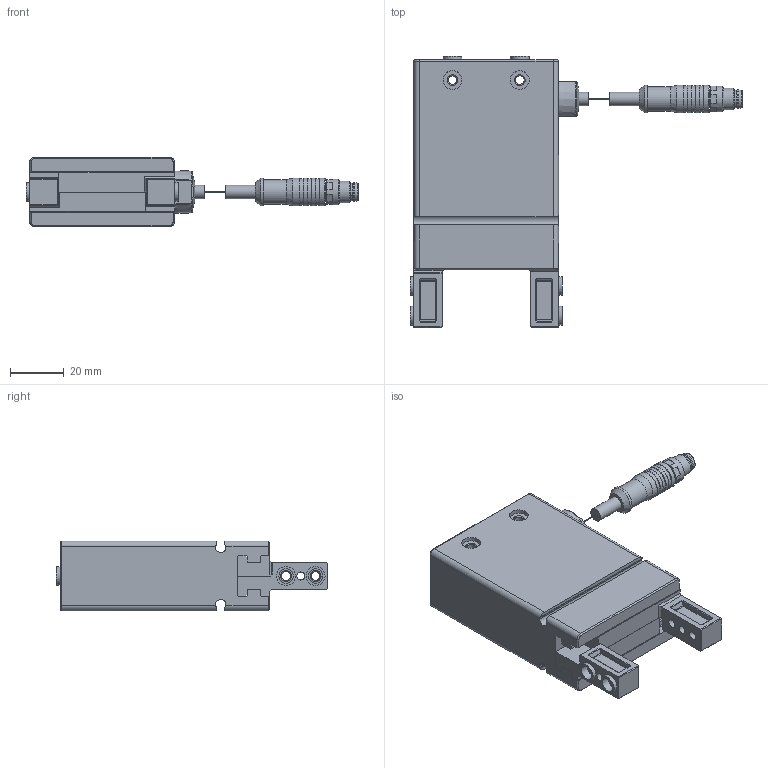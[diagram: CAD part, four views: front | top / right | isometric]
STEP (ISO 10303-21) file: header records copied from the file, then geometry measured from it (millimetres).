
FILE_DESCRIPTION(/* description */ ('STEP AP214'),/* implementation_level */ '2;1');
FILE_NAME(/* name */ 'GEP2010IO-05-B(01CSTE009931)',/* time_stamp */ '2023-09-26T10:29:36+02:00',/* author */ ('License CC BY-ND 4.0'),/* organization */ ('CADENAS'),/* preprocessor_version */ 'ST-DEVELOPER v19.3',/* originating_system */ 'PARTsolutions',/* authorisation */ ' ');
FILE_SCHEMA (('AUTOMOTIVE_DESIGN {1 0 10303 214 3 1 1}'));
Length unit declared in the file: millimetre
Products named in the file (5): GEP2010IO-05-B(01CSTE009931); GEP2010IO-05-B_bac 1; CTYP00087_Etikett; CSTE00993_Stecker; GEP2010IO-05-B1_ZYL
Assembly tree (5 placements, depth 2):
  GEP2010IO-05-B(01CSTE009931)
    GEP2010IO-05-B_bac 1  x2
    CTYP00087_Etikett
    CSTE00993_Stecker
    GEP2010IO-05-B1_ZYL
Bounding box: 123.4 x 100.9 x 26 mm (x, y, z)
Volume: 112063.2 mm3; surface area: 28484.2 mm2
Topology: 5 solids, 7 shells, 599 faces, 1440 edges, 900 vertices
Faces by surface type: plane 406, cylinder 106, cone 39, torus 23, bspline 20, sphere 5
Full cylindrical faces by diameter (mm): 0.4 x1, 1 x5, 1.5 x2, 3 x2, 3.242 x10, 5.1 x3, 5.3 x6, 6.492 x2, 6.892 x1, 7 x12, 7.992 x1, 9.092 x1, 9.592 x1, 9.892 x3, 10.292 x5
Entity records: 15647 total; most frequent: CARTESIAN_POINT 2656, DIRECTION 2358, ORIENTED_EDGE 2264, EDGE_CURVE 1132, LINE 804, VECTOR 804, AXIS2_PLACEMENT_3D 777, VERTEX_POINT 771
